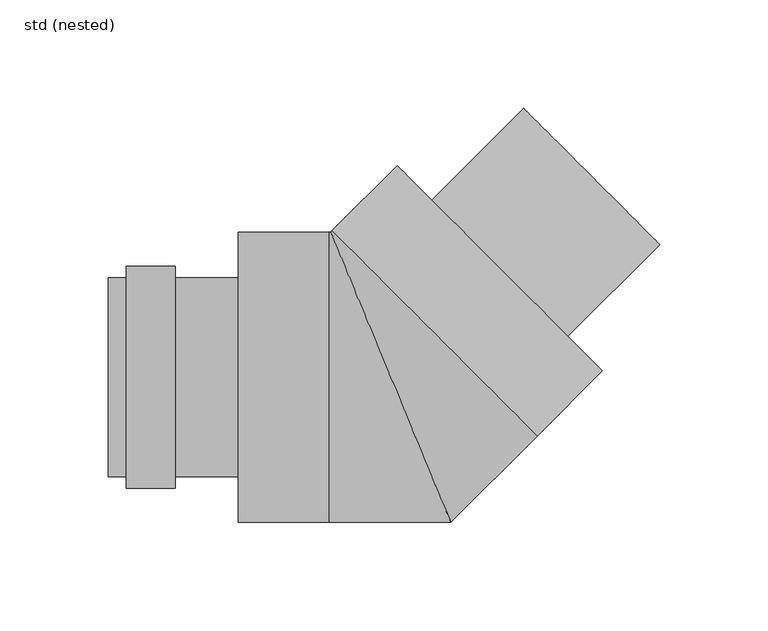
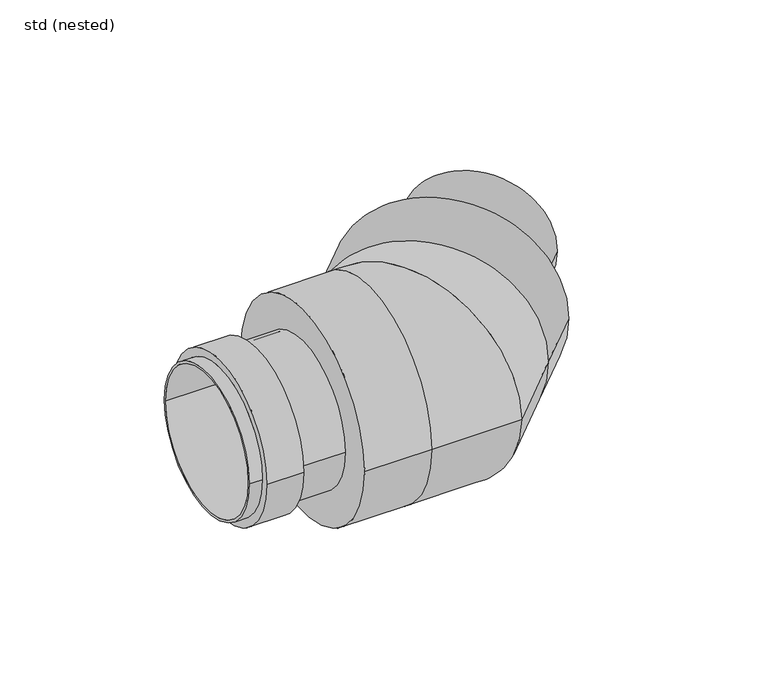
"""IFC4 building model written with IfcOpenShell, lengths in millimetres: pipe fitting geometry, ZZZ_do not use_PIF_ST_WPB_GM-X compound pipe bend_ACO : std (nested)."""

from ifc_helpers import new_model, si_unit, point, frame, frame_2d, origin, place, context, project, spatial, polyline, circle_curve, ellipse_curve, trimmed, segment, composite_curve, outline, extrude, source, transform, mapped, element, save
from ifc_brep_helpers import plane_surface, cylinder_surface, revolved_surface, advanced_brep


def std_nested_b89ce39c(model_context):
    return source(origin(), model_context, "Body", "SolidModel", [
        advanced_brep(
        [(-122.3, -51.3, 0.0), (-122.3, 51.3, 0.0), (-99.5, 51.3, 0.0), (-99.5, -51.3, 0.0), (-130.5, 46.0, 0.0), (-130.5, -46.0, 0.0), (-130.5, -44.5, 0.0), (-130.5, 44.5, 0.0), (-70.5, 46.0, 0.0), (-70.5, -46.0, 0.0), (-70.5, 44.5, 0.0), (-70.5, -44.5, 0.0), (-122.3, 46.0, 0.0), (-122.3, -46.0, 0.0), (-99.5, -46.0, 0.0), (-99.5, 46.0, 0.0)],
        [
            (0, 1, circle_curve(frame((-122.3, 0.0, 0.0), z_axis=(1.0, 0.0, 0.0), x_axis=(0.0, -1.0, 0.0)), 51.3)),
            (1, 2),
            (2, 3, circle_curve(frame((-99.5, 0.0, 0.0), z_axis=(-1.0, 0.0, 0.0), x_axis=(0.0, -1.0, 0.0)), 51.3)),
            (3, 0),
            (1, 0, circle_curve(frame((-122.3, 0.0, 0.0), z_axis=(1.0, 0.0, 0.0), x_axis=(0.0, -1.0, 0.0)), 51.3)),
            (3, 2, circle_curve(frame((-99.5, 0.0, 0.0), z_axis=(-1.0, 0.0, 0.0), x_axis=(0.0, -1.0, 0.0)), 51.3)),
            (4, 5, circle_curve(frame((-130.5, 0.0, 0.0), z_axis=(-1.0, 0.0, 0.0), x_axis=(0.0, -1.0, 0.0)), 46.0)),
            (5, 4, circle_curve(frame((-130.5, 0.0, 0.0), z_axis=(-1.0, 0.0, 0.0), x_axis=(0.0, -1.0, 0.0)), 46.0)),
            (6, 7, circle_curve(frame((-130.5, 0.0, 0.0), z_axis=(1.0, 0.0, 0.0), x_axis=(0.0, -1.0, 0.0)), 44.5)),
            (7, 6, circle_curve(frame((-130.5, 0.0, 0.0), z_axis=(1.0, 0.0, 0.0), x_axis=(0.0, -1.0, 0.0)), 44.5)),
            (8, 9, circle_curve(frame((-70.5, 0.0, 0.0), z_axis=(1.0, 0.0, 0.0), x_axis=(0.0, -1.0, 0.0)), 46.0)),
            (9, 8, circle_curve(frame((-70.5, 0.0, 0.0), z_axis=(1.0, 0.0, 0.0), x_axis=(0.0, -1.0, 0.0)), 46.0)),
            (10, 11, circle_curve(frame((-70.5, 0.0, 0.0), z_axis=(-1.0, 0.0, 0.0), x_axis=(0.0, -1.0, 0.0)), 44.5)),
            (11, 10, circle_curve(frame((-70.5, 0.0, 0.0), z_axis=(-1.0, 0.0, 0.0), x_axis=(0.0, -1.0, 0.0)), 44.5)),
            (4, 12),
            (12, 13, circle_curve(frame((-122.3, 0.0, 0.0), z_axis=(-1.0, 0.0, 0.0), x_axis=(0.0, -1.0, 0.0)), 46.0)),
            (13, 5),
            (9, 14),
            (14, 15, circle_curve(frame((-99.5, 0.0, 0.0), z_axis=(1.0, 0.0, 0.0), x_axis=(0.0, -1.0, 0.0)), 46.0)),
            (15, 8),
            (13, 12, circle_curve(frame((-122.3, 0.0, 0.0), z_axis=(-1.0, 0.0, 0.0), x_axis=(0.0, -1.0, 0.0)), 46.0)),
            (15, 14, circle_curve(frame((-99.5, 0.0, 0.0), z_axis=(1.0, 0.0, 0.0), x_axis=(0.0, -1.0, 0.0)), 46.0)),
            (6, 11),
            (10, 7),
        ],
        [
            cylinder_surface(frame((-99.5, 0.0, 0.0), z_axis=(-1.0, 0.0, 0.0), x_axis=(0.0, -1.0, 0.0)), 51.3),
            plane_surface(frame((-130.5, -46.0, 0.0), z_axis=(-1.0, 0.0, 0.0), x_axis=(0.0, 0.0, 1.0))),
            plane_surface(frame((-70.5, -46.0, 0.0), z_axis=(1.0, 0.0, 0.0), x_axis=(0.0, 0.0, -1.0))),
            cylinder_surface(frame((-70.5, 0.0, 0.0), z_axis=(-1.0, 0.0, 0.0), x_axis=(0.0, -1.0, 0.0)), 46.0),
            revolved_surface(polyline([(-130.5, -44.5, 0.0), (-70.5, -44.5, 0.0)]), (-70.5, 0.0, 0.0), (-1.0, 0.0, 0.0)),
            plane_surface(frame((-122.3, -51.3, 0.0), z_axis=(-1.0, 0.0, 0.0), x_axis=(0.0, 0.0, 1.0))),
            plane_surface(frame((-99.5, -51.3, 0.0), z_axis=(1.0, 0.0, 0.0), x_axis=(0.0, 0.0, -1.0))),
        ],
        [
            (0, [[1, 2, 3, 4]]),
            (0, [[5, -4, 6, -2]]),
            (1, [[7, 8], [9, 10]]),
            (2, [[11, 12], [13, 14]]),
            (3, [[-7, 15, 16, 17]]),
            (3, [[-12, 18, 19, 20]]),
            (3, [[-8, -17, 21, -15]]),
            (3, [[-11, -20, 22, -18]]),
            (4, [[23, -13, 24, -9]]),
            (4, [[-23, -10, -24, -14]]),
            (5, [[-1, -5], [-16, -21]]),
            (6, [[-6, -3], [-19, -22]]),
        ],
    ),
        extrude(outline(composite_curve([segment(trimmed(circle_curve(frame_2d((0.0, -44.5)), 44.5), [point((0.0, -89.0))], [point((0.0, 0.0))], False, "CARTESIAN"), True, "CONTINUOUS"), segment(trimmed(circle_curve(frame_2d((0.0, -44.5)), 44.5), [point((0.0, 0.0))], [point((0.0, -89.0))], False, "CARTESIAN"), True, "CONTINUOUS")], self_intersect=False)), frame((81.8122546, 18.8797511, 0.0), z_axis=(0.7071067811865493, 0.7071067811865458, 0.0), x_axis=(0.0, 0.0, 1.0)), (0.0, 0.0, 1.0), 60.0),
        advanced_brep(
        [(-28.5807358, -67.0, 0.0), (-28.5807358, 67.0, 0.0), (-70.5, 67.0, 0.0), (-70.5, -67.0, 0.0), (27.7523087, -67.0, 0.0), (-27.7523087, 67.0, 0.0), (67.5857864, -27.1665222, 0.0), (-27.1665222, 67.5857864, 0.0), (2.9698485, 97.7221572, 0.0), (97.7221572, 2.9698485, 0.0)],
        [
            (0, 1, circle_curve(frame((-28.5807358, 0.0, 0.0), z_axis=(-1.0, 0.0, 0.0), x_axis=(0.0, 1.0, 0.0)), 67.0)),
            (1, 2),
            (2, 3, circle_curve(frame((-70.5, 0.0, 0.0), z_axis=(1.0, 0.0, 0.0), x_axis=(0.0, 1.0, 0.0)), 67.0)),
            (3, 0),
            (1, 0, circle_curve(frame((-28.5807358, 0.0, 0.0), z_axis=(-1.0, 0.0, 0.0), x_axis=(0.0, 1.0, 0.0)), 67.0)),
            (3, 2, circle_curve(frame((-70.5, 0.0, 0.0), z_axis=(1.0, 0.0, 0.0), x_axis=(0.0, 1.0, 0.0)), 67.0)),
            (0, 4),
            (4, 5, ellipse_curve(frame((0.0, 0.0, 0.0), z_axis=(-0.9238795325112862, -0.3826834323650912, 0.0), x_axis=(-0.38268343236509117, 0.9238795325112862, 0.0)), 72.5202774, 67.0)),
            (5, 1),
            (5, 4, ellipse_curve(frame((0.0, 0.0, 0.0), z_axis=(-0.9238795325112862, -0.3826834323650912, 0.0), x_axis=(-0.38268343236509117, 0.9238795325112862, 0.0)), 72.5202774, 67.0)),
            (4, 6),
            (6, 7, circle_curve(frame((20.2096321, 20.2096321, 0.0), z_axis=(-0.7071067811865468, -0.7071067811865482, 0.0), x_axis=(-0.7071067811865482, 0.7071067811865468, 0.0)), 67.0)),
            (7, 5),
            (7, 6, circle_curve(frame((20.2096321, 20.2096321, 0.0), z_axis=(-0.7071067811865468, -0.7071067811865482, 0.0), x_axis=(-0.7071067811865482, 0.7071067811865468, 0.0)), 67.0)),
            (8, 9, circle_curve(frame((50.3460028, 50.3460028, 0.0), z_axis=(0.7071067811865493, 0.7071067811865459, 0.0), x_axis=(0.7071067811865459, -0.7071067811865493, 0.0)), 67.0)),
            (9, 8, circle_curve(frame((50.3460028, 50.3460028, 0.0), z_axis=(0.7071067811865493, 0.7071067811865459, 0.0), x_axis=(0.7071067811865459, -0.7071067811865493, 0.0)), 67.0)),
            (6, 9),
            (8, 7),
        ],
        [
            cylinder_surface(frame((-28.5807358, 0.0, 0.0), z_axis=(-1.0, 0.0, 0.0), x_axis=(0.0, 1.0, 0.0)), 67.0),
            cylinder_surface(frame((0.0, 0.0, 0.0), z_axis=(-0.7071067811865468, -0.7071067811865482, 0.0), x_axis=(-0.7071067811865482, 0.7071067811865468, 0.0)), 67.0),
            plane_surface(frame((-70.5, 67.0, 0.0), z_axis=(-1.0, 0.0, 0.0), x_axis=(0.0, 0.0, 1.0))),
            plane_surface(frame((97.7221572, 2.9698485, 0.0), z_axis=(0.7071067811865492, 0.7071067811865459, 0.0), x_axis=(0.0, 0.0, 1.0))),
            cylinder_surface(frame((20.2096321, 20.2096321, 0.0), z_axis=(0.7071067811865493, 0.7071067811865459, 0.0), x_axis=(0.7071067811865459, -0.7071067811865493, 0.0)), 67.0),
        ],
        [
            (0, [[1, 2, 3, 4]]),
            (0, [[5, -4, 6, -2]]),
            (0, [[7, 8, 9, -1]]),
            (0, [[-7, -5, -9, 10]]),
            (1, [[-8, 11, 12, 13]]),
            (1, [[-10, -13, 14, -11]]),
            (2, [[-3, -6]]),
            (3, [[15, 16]]),
            (4, [[-12, 17, -15, 18]]),
            (4, [[-14, -18, -16, -17]]),
        ],
    ),
    ])


if __name__ == "__main__":
    model = new_model("IFC4")
    model_context = context("Model", 3, world=origin())
    ifc_project = project(units=[si_unit("LENGTHUNIT", "METRE", prefix="MILLI")], contexts=[model_context])
    site = spatial("IfcSite", under=ifc_project)
    building = spatial("IfcBuilding", under=site)
    placement = place(None, origin())
    std_nested_shape = std_nested_b89ce39c(model_context)
    element("IfcPipeFitting", 1, ObjectType="ZZZ_do not use_PIF_ST_WPB_GM-X compound pipe bend_ACO : std (nested)", at=placement, inside=building, context=model_context, shape_type="MappedRepresentation", body=[
        mapped(std_nested_shape, transform((0.0, 0.0, 0.0), x_axis=(1.0, 0.0, 0.0), y_axis=(0.0, 1.0, 0.0), z_axis=(0.0, 0.0, 1.0))),
    ])
    save(model, "model.ifc")
